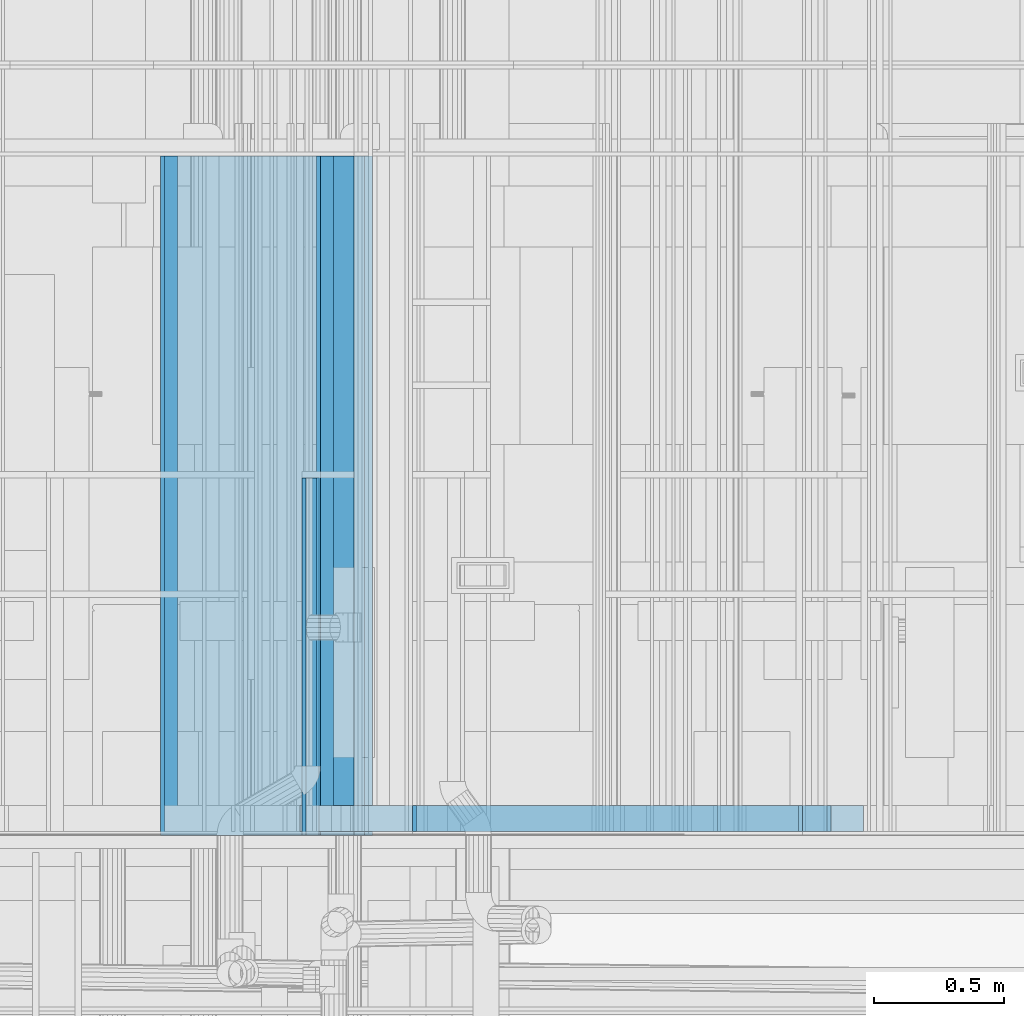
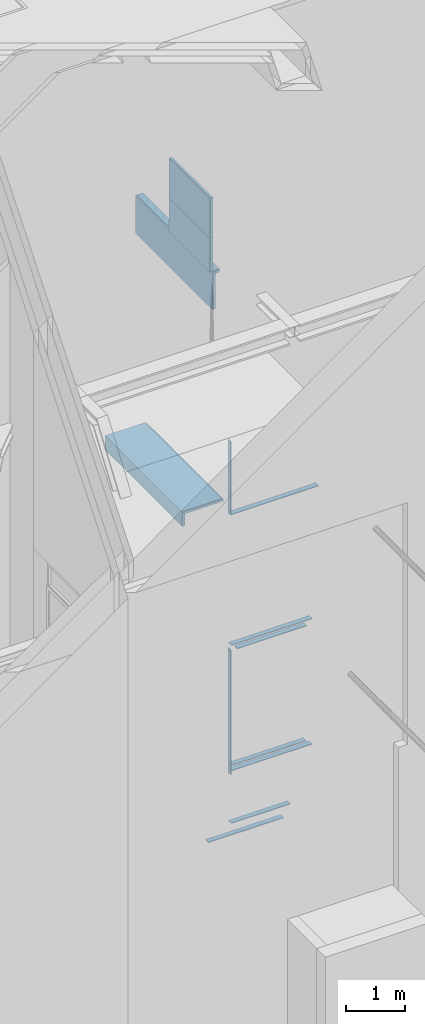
# One storey, part 47 of 583: 21 building element parts, 11 elements without a shape of their own.
"""IFC2X3 building model written with IfcOpenShell, lengths in metres."""

from ifc_helpers import new_model, entity, si_unit, converted_unit, derived_unit, money_unit, direction, frame, frame_2d, origin_with_axes, place, context, subcontext, project, spatial, polyline, rectangle, outline, extrude, material, type_object, element, aggregate, save


model = new_model("IFC2X3")

# Units and contexts
model_context = context("Model", 3, precision=1e-05, world=origin_with_axes(), true_north=direction((0.0, 1.0)))
body_context = subcontext(model_context, "Body", "Model", "MODEL_VIEW", scale=1.0)
ifc_project = project(units=[si_unit("LENGTHUNIT", "METRE"), si_unit("AREAUNIT", "SQUARE_METRE"), si_unit("VOLUMEUNIT", "CUBIC_METRE"), si_unit("ABSORBEDDOSEUNIT", "GRAY"), si_unit("AMOUNTOFSUBSTANCEUNIT", "MOLE"), si_unit("DOSEEQUIVALENTUNIT", "SIEVERT"), si_unit("ELECTRICCAPACITANCEUNIT", "FARAD"), si_unit("ELECTRICCHARGEUNIT", "COULOMB"), si_unit("ELECTRICCONDUCTANCEUNIT", "SIEMENS"), si_unit("ELECTRICCURRENTUNIT", "AMPERE"), si_unit("ELECTRICRESISTANCEUNIT", "OHM"), si_unit("ELECTRICVOLTAGEUNIT", "VOLT"), si_unit("ENERGYUNIT", "JOULE"), si_unit("FORCEUNIT", "NEWTON"), si_unit("FREQUENCYUNIT", "HERTZ"), si_unit("ILLUMINANCEUNIT", "LUX"), si_unit("INDUCTANCEUNIT", "HENRY"), si_unit("LUMINOUSFLUXUNIT", "LUMEN"), si_unit("LUMINOUSINTENSITYUNIT", "CANDELA"), si_unit("MAGNETICFLUXDENSITYUNIT", "TESLA"), si_unit("MAGNETICFLUXUNIT", "WEBER"), si_unit("MASSUNIT", "GRAM"), converted_unit("PLANEANGLEUNIT", "degree", entity("IfcReal", 0.0174532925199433), si_unit("PLANEANGLEUNIT", "RADIAN"), dimensions=[0, 0, 0, 0, 0, 0, 0]), si_unit("POWERUNIT", "WATT"), si_unit("PRESSUREUNIT", "PASCAL"), si_unit("RADIOACTIVITYUNIT", "BECQUEREL"), si_unit("SOLIDANGLEUNIT", "STERADIAN"), si_unit("THERMODYNAMICTEMPERATUREUNIT", "KELVIN"), si_unit("TIMEUNIT", "SECOND"), derived_unit("ACCELERATIONUNIT", [(si_unit("LENGTHUNIT", "METRE"), 1), (si_unit("TIMEUNIT", "SECOND"), -2)]), derived_unit("ANGULARVELOCITYUNIT", [(converted_unit("PLANEANGLEUNIT", "degree", entity("IfcReal", 0.0174532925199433), si_unit("PLANEANGLEUNIT", "RADIAN"), dimensions=[0, 0, 0, 0, 0, 0, 0]), 1), (si_unit("TIMEUNIT", "SECOND"), -1)]), derived_unit("CURVATUREUNIT", [(converted_unit("PLANEANGLEUNIT", "degree", entity("IfcReal", 0.0174532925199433), si_unit("PLANEANGLEUNIT", "RADIAN"), dimensions=[0, 0, 0, 0, 0, 0, 0]), 1), (si_unit("LENGTHUNIT", "METRE"), -1)]), derived_unit("DYNAMICVISCOSITYUNIT", [(si_unit("PRESSUREUNIT", "PASCAL"), 1), (si_unit("TIMEUNIT", "SECOND"), 1)]), derived_unit("HEATFLUXDENSITYUNIT", [(si_unit("POWERUNIT", "WATT"), 1), (si_unit("LENGTHUNIT", "METRE"), -2)]), derived_unit("HEATINGVALUEUNIT", [(si_unit("ENERGYUNIT", "JOULE"), 1), (si_unit("MASSUNIT", "GRAM"), -1)]), derived_unit("INTEGERCOUNTRATEUNIT", [(si_unit("TIMEUNIT", "SECOND"), -1)]), derived_unit("IONCONCENTRATIONUNIT", [(si_unit("MASSUNIT", "GRAM"), 1), (si_unit("VOLUMEUNIT", "CUBIC_METRE"), -1)]), derived_unit("ISOTHERMALMOISTURECAPACITYUNIT", [(si_unit("VOLUMEUNIT", "CUBIC_METRE"), 1), (si_unit("MASSUNIT", "GRAM"), -1)]), derived_unit("KINEMATICVISCOSITYUNIT", [(si_unit("AREAUNIT", "SQUARE_METRE"), 1), (si_unit("TIMEUNIT", "SECOND"), -1)]), derived_unit("LINEARFORCEUNIT", [(si_unit("FORCEUNIT", "NEWTON"), 1), (si_unit("LENGTHUNIT", "METRE"), -1)]), derived_unit("LINEARMOMENTUNIT", [(si_unit("FORCEUNIT", "NEWTON"), 1), (si_unit("LENGTHUNIT", "METRE"), -1)]), derived_unit("LINEARSTIFFNESSUNIT", [(si_unit("FORCEUNIT", "NEWTON"), 1), (si_unit("LENGTHUNIT", "METRE"), -1)]), derived_unit("LINEARVELOCITYUNIT", [(si_unit("LENGTHUNIT", "METRE"), 1), (si_unit("TIMEUNIT", "SECOND"), -1)]), derived_unit("LUMINOUSINTENSITYDISTRIBUTIONUNIT", [(si_unit("LUMINOUSINTENSITYUNIT", "CANDELA"), 1), (si_unit("LUMINOUSFLUXUNIT", "LUMEN"), -1)]), derived_unit("MASSDENSITYUNIT", [(si_unit("MASSUNIT", "GRAM"), 1), (si_unit("VOLUMEUNIT", "CUBIC_METRE"), -1)]), derived_unit("MASSFLOWRATEUNIT", [(si_unit("MASSUNIT", "GRAM"), 1), (si_unit("TIMEUNIT", "SECOND"), -1)]), derived_unit("MASSPERLENGTHUNIT", [(si_unit("MASSUNIT", "GRAM"), 1), (si_unit("LENGTHUNIT", "METRE"), -1)]), derived_unit("MODULUSOFELASTICITYUNIT", [(si_unit("FORCEUNIT", "NEWTON"), 1), (si_unit("AREAUNIT", "SQUARE_METRE"), -1)]), derived_unit("MODULUSOFLINEARSUBGRADEREACTIONUNIT", [(si_unit("FORCEUNIT", "NEWTON"), 1), (si_unit("LENGTHUNIT", "METRE"), -2)]), derived_unit("MODULUSOFROTATIONALSUBGRADEREACTIONUNIT", [(si_unit("FORCEUNIT", "NEWTON"), 1), (si_unit("LENGTHUNIT", "METRE"), 1)]), derived_unit("MODULUSOFSUBGRADEREACTIONUNIT", [(si_unit("FORCEUNIT", "NEWTON"), 1), (si_unit("VOLUMEUNIT", "CUBIC_METRE"), -1)]), derived_unit("MOISTUREDIFFUSIVITYUNIT", [(si_unit("VOLUMEUNIT", "CUBIC_METRE"), 1), (si_unit("TIMEUNIT", "SECOND"), -1)]), derived_unit("MOLECULARWEIGHTUNIT", [(si_unit("MASSUNIT", "GRAM"), 1), (si_unit("AMOUNTOFSUBSTANCEUNIT", "MOLE"), -1)]), derived_unit("PLANARFORCEUNIT", [(si_unit("FORCEUNIT", "NEWTON"), 1), (si_unit("LENGTHUNIT", "METRE"), -2)]), derived_unit("ROTATIONALFREQUENCYUNIT", [(si_unit("TIMEUNIT", "SECOND"), -1)]), derived_unit("ROTATIONALMASSUNIT", [(si_unit("MASSUNIT", "GRAM"), 1), (si_unit("LENGTHUNIT", "METRE"), 2)]), derived_unit("ROTATIONALSTIFFNESSUNIT", [(si_unit("FORCEUNIT", "NEWTON"), 1), (si_unit("LENGTHUNIT", "METRE"), 1), (converted_unit("PLANEANGLEUNIT", "degree", entity("IfcReal", 0.0174532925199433), si_unit("PLANEANGLEUNIT", "RADIAN"), dimensions=[0, 0, 0, 0, 0, 0, 0]), -1)]), derived_unit("SECTIONAREAINTEGRALUNIT", [(si_unit("LENGTHUNIT", "METRE"), 5)]), derived_unit("SECTIONMODULUSUNIT", [(si_unit("LENGTHUNIT", "METRE"), 3)]), derived_unit("SHEARMODULUSUNIT", [(si_unit("FORCEUNIT", "NEWTON"), 1), (si_unit("AREAUNIT", "SQUARE_METRE"), -1)]), derived_unit("SOUNDPOWERUNIT", [(si_unit("ENERGYUNIT", "JOULE"), 1), (si_unit("TIMEUNIT", "SECOND"), -1)]), derived_unit("SPECIFICHEATCAPACITYUNIT", [(si_unit("FORCEUNIT", "NEWTON"), 1), (si_unit("MASSUNIT", "GRAM"), -1), (si_unit("THERMODYNAMICTEMPERATUREUNIT", "KELVIN"), -1)]), derived_unit("TEMPERATUREGRADIENTUNIT", [(si_unit("THERMODYNAMICTEMPERATUREUNIT", "KELVIN"), 1), (si_unit("LENGTHUNIT", "METRE"), -1)]), derived_unit("THERMALADMITTANCEUNIT", [(si_unit("POWERUNIT", "WATT"), 1), (si_unit("AREAUNIT", "SQUARE_METRE"), -1), (si_unit("THERMODYNAMICTEMPERATUREUNIT", "KELVIN"), -1)]), derived_unit("THERMALCONDUCTANCEUNIT", [(si_unit("POWERUNIT", "WATT"), 1), (si_unit("LENGTHUNIT", "METRE"), -1), (si_unit("THERMODYNAMICTEMPERATUREUNIT", "KELVIN"), -1)]), derived_unit("THERMALEXPANSIONCOEFFICIENTUNIT", [(si_unit("THERMODYNAMICTEMPERATUREUNIT", "KELVIN"), -1)]), derived_unit("THERMALRESISTANCEUNIT", [(si_unit("AREAUNIT", "SQUARE_METRE"), 1), (si_unit("POWERUNIT", "WATT"), -1)]), derived_unit("THERMALTRANSMITTANCEUNIT", [(si_unit("POWERUNIT", "WATT"), 1), (si_unit("AREAUNIT", "SQUARE_METRE"), -1), (si_unit("THERMODYNAMICTEMPERATUREUNIT", "KELVIN"), -1)]), derived_unit("TORQUEUNIT", [(si_unit("FORCEUNIT", "NEWTON"), 1), (si_unit("LENGTHUNIT", "METRE"), 1)]), derived_unit("VAPORPERMEABILITYUNIT", [(si_unit("MASSUNIT", "GRAM"), 1), (si_unit("TIMEUNIT", "SECOND"), -1)]), derived_unit("VOLUMETRICFLOWRATEUNIT", [(si_unit("VOLUMEUNIT", "CUBIC_METRE"), 1), (si_unit("TIMEUNIT", "SECOND"), -1)]), derived_unit("WARPINGCONSTANTUNIT", [(si_unit("LENGTHUNIT", "METRE"), 6)]), derived_unit("WARPINGMOMENTUNIT", [(si_unit("FORCEUNIT", "NEWTON"), 1), (si_unit("LENGTHUNIT", "METRE"), 2)]), money_unit("GBP")], contexts=[model_context])

# Site, building, storey
site_placement = place(None, origin_with_axes())
site = spatial("IfcSite", under=ifc_project, at=site_placement, Name="Site", CompositionType="ELEMENT")
building_placement = place(site_placement, origin_with_axes())
building = spatial("IfcBuilding", under=site, at=building_placement, Name="Building01", CompositionType="ELEMENT")
storey_placement = place(building_placement, frame((0.0, 0.0, 20.78), z_axis=(0.0, 0.0, 1.0), x_axis=(1.0, 0.0, 0.0)))
storey = spatial("IfcBuildingStorey", under=building, at=storey_placement, Name="RL", CompositionType="ELEMENT", Elevation=20.78)

# Wall, building element parts
wall_type_1 = type_object("IfcWallType", Name="SHE_A-Walls_Type05a_Partition_95mm_tall", PredefinedType="NOTDEFINED")
wall_1_placement = place(storey_placement, frame((10.38, 5.15, -7.851415), z_axis=(0.0, 1.0, 0.0), x_axis=(-1.0, 0.0, 0.0)))
wall_1 = element("IfcWall", 1, at=wall_1_placement, inside=storey, type_object=wall_type_1, Name="5A", ObjectType="SHE_A-Walls_Type05a_Partition_95mm_tall")
ifc_material_1 = material(Name="A_BSUK_Walls_Timber")
placement_1 = place(wall_1_placement, origin_with_axes())
building_element_part_1 = element("IfcBuildingElementPart", 2, at=placement_1, material=ifc_material_1, Name="2", context=body_context, shape_type="SweptSolid", body=[
    extrude(outline(polyline([(1.545, 0.075), (-0.05, 0.075), (-0.035, 0.06), (1.545, 0.06), (1.545, 0.075)])), frame((0.0, 0.0, 0.015), z_axis=(0.0, 0.0, 1.0), x_axis=(1.0, 0.0, 0.0)), (0.0, 0.0, 1.0), 0.1),
])
building_element_part_2 = element("IfcBuildingElementPart", 3, at=placement_1, material=ifc_material_1, Name="3", context=body_context, shape_type="SweptSolid", body=[
    extrude(outline(polyline([(1.426872, -0.035), (0.06, -0.035), (0.075, -0.05), (1.426872, -0.05), (1.426872, -0.035)])), frame((0.0, 0.0, 0.015), z_axis=(0.0, 0.0, 1.0), x_axis=(1.0, 0.0, 0.0)), (0.0, 0.0, 1.0), 0.1),
])
aggregate(wall_1, [building_element_part_1, building_element_part_2])

wall_type_2 = type_object("IfcWallType", Name="SHE_A-Walls_Type05c_PreWallShell_65mm", PredefinedType="NOTDEFINED")
wall_2_placement = place(storey_placement, frame((7.915, 5.15, -4.715), z_axis=(0.0, 1.0, 0.0), x_axis=(1.0, 0.0, 0.0)))
wall_2 = element("IfcWall", 4, at=wall_2_placement, inside=storey, type_object=wall_type_2, Name="5C", ObjectType="SHE_A-Walls_Type05c_PreWallShell_65mm")
ifc_material_2 = material(Name="A_BSUK_OpeningsClearance")
placement_2 = place(wall_2_placement, origin_with_axes())
building_element_part_3 = element("IfcBuildingElementPart", 5, at=placement_2, material=ifc_material_2, Name="1", context=body_context, shape_type="SweptSolid", body=[
    extrude(outline(polyline([(0.75, 0.0), (0.0, 0.0), (-0.05, -0.05), (0.75, -0.05), (0.75, 0.0)])), origin_with_axes(), (0.0, 0.0, 1.0), 2.615),
])
building_element_part_4 = element("IfcBuildingElementPart", 6, at=placement_2, material=ifc_material_1, Name="2", context=body_context, shape_type="SweptSolid", body=[
    extrude(outline(polyline([(0.72, -0.05), (-0.05, -0.05), (-0.065, -0.065), (0.72, -0.065), (0.72, -0.05)])), origin_with_axes(), (0.0, 0.0, 1.0), 2.615),
])
aggregate(wall_2, [building_element_part_3, building_element_part_4])

wall_3_placement = place(storey_placement, frame((7.915, 5.15, -4.965), z_axis=(0.0, 1.0, 0.0), x_axis=(0.0, 0.0, 1.0)))
wall_3 = element("IfcWall", 7, at=wall_3_placement, inside=storey, type_object=wall_type_2, Name="5C", ObjectType="SHE_A-Walls_Type05c_PreWallShell_65mm")
placement_3 = place(wall_3_placement, origin_with_axes())
building_element_part_5 = element("IfcBuildingElementPart", 8, at=placement_3, material=ifc_material_2, Name="1", context=body_context, shape_type="SweptSolid", body=[
    extrude(outline(polyline([(0.25, 0.0), (0.0, 0.0), (0.0, -0.05), (0.3, -0.05), (0.25, 0.0)])), origin_with_axes(), (0.0, 0.0, 1.0), 2.615),
])
building_element_part_6 = element("IfcBuildingElementPart", 9, at=placement_3, material=ifc_material_1, Name="2", context=body_context, shape_type="SweptSolid", body=[
    extrude(outline(polyline([(0.3, -0.05), (0.03, -0.05), (0.03, -0.065), (0.315, -0.065), (0.3, -0.05)])), origin_with_axes(), (0.0, 0.0, 1.0), 2.615),
])
aggregate(wall_3, [building_element_part_5, building_element_part_6])

wall_type_3 = type_object("IfcWallType", Name="SHE_A-Walls_Type03a_BlockworkWall_170mm", PredefinedType="NOTDEFINED")
wall_4_placement = place(storey_placement, frame((8.805, 5.15, -2.795), z_axis=(0.0, 1.0, 0.0), x_axis=(0.0, 0.0, -1.0)))
wall_4 = element("IfcWall", 10, at=wall_4_placement, inside=storey, type_object=wall_type_3, Name="4B", ObjectType="SHE_A-Walls_Type03a_BlockworkWall_170mm")
placement_4 = place(wall_4_placement, origin_with_axes())
building_element_part_7 = element("IfcBuildingElementPart", 11, at=placement_4, material=ifc_material_1, Name="11", context=body_context, shape_type="SweptSolid", body=[
    extrude(rectangle(XDim=2.589714, YDim=0.015, at=frame_2d((6.386272, -0.0225), x_axis=(-1.0, 0.0))), frame((0.0, 0.0, 0.015), z_axis=(0.0, 0.0, 1.0), x_axis=(1.0, 0.0, 0.0)), (0.0, 0.0, 1.0), 0.1),
])
building_element_part_8 = element("IfcBuildingElementPart", 12, at=placement_4, material=ifc_material_1, Name="12", context=body_context, shape_type="SweptSolid", body=[
    extrude(rectangle(XDim=1.515, YDim=0.015, at=frame_2d((1.504368, -0.0225), x_axis=(-1.0, 0.0))), frame((0.0, 0.0, 0.015), z_axis=(0.0, 0.0, 1.0), x_axis=(1.0, 0.0, 0.0)), (0.0, 0.0, 1.0), 0.1),
])
aggregate(wall_4, [building_element_part_7, building_element_part_8])

wall_type_4 = type_object("IfcWallType", Name="SHE_A-Walls_Type01c_Partywall_225mm_twin_tall", PredefinedType="NOTDEFINED")
wall_5_placement = place(storey_placement, frame((8.82, 5.15, -11.633), z_axis=(0.0, 1.0, 0.0), x_axis=(1.0, 0.0, 0.0)))
wall_5 = element("IfcWall", 13, at=wall_5_placement, inside=storey, type_object=wall_type_4, Name="1C", ObjectType="SHE_A-Walls_Type01c_Partywall_225mm_twin_tall")
placement_5 = place(wall_5_placement, origin_with_axes())
building_element_part_9 = element("IfcBuildingElementPart", 14, at=placement_5, material=ifc_material_1, Name="2", context=body_context, shape_type="SweptSolid", body=[
    extrude(outline(polyline([(1.027704, 0.102), (-0.432595, 0.102), (-0.432595, 0.087), (1.042704, 0.087), (1.027704, 0.102)])), frame((0.0, 0.0, 0.015), z_axis=(0.0, 0.0, 1.0), x_axis=(1.0, 0.0, 0.0)), (0.0, 0.0, 1.0), 0.1),
])
building_element_part_10 = element("IfcBuildingElementPart", 15, at=placement_5, material=ifc_material_1, Name="7", context=body_context, shape_type="SweptSolid", body=[
    extrude(rectangle(XDim=1.157704, YDim=0.015, at=frame_2d((0.593852, -0.1455), x_axis=(-1.0, 0.0))), frame((0.0, 0.0, 0.015), z_axis=(0.0, 0.0, 1.0), x_axis=(1.0, 0.0, 0.0)), (0.0, 0.0, 1.0), 0.1),
])
aggregate(wall_5, [building_element_part_9, building_element_part_10])

wall_6_placement = place(storey_placement, frame((8.515, 5.15, 0.127661), z_axis=(0.0, 1.0, 0.0), x_axis=(0.0, 0.0, -1.0)))
wall_6 = element("IfcWall", 16, at=wall_6_placement, inside=storey, type_object=wall_type_2, Name="5C", ObjectType="SHE_A-Walls_Type05c_PreWallShell_65mm")
placement_6 = place(wall_6_placement, origin_with_axes())
building_element_part_11 = element("IfcBuildingElementPart", 17, at=placement_6, material=ifc_material_2, Name="1", context=body_context, shape_type="SweptSolid", body=[
    extrude(rectangle(XDim=0.785, YDim=0.05, at=frame_2d((0.3925, 0.025), x_axis=(-1.0, 0.0))), origin_with_axes(), (0.0, 0.0, 1.0), 2.615),
])
building_element_part_12 = element("IfcBuildingElementPart", 18, at=placement_6, material=ifc_material_1, Name="2", context=body_context, shape_type="SweptSolid", body=[
    extrude(rectangle(XDim=0.8, YDim=0.015, at=frame_2d((0.385, 0.0575), x_axis=(-1.0, 0.0))), origin_with_axes(), (0.0, 0.0, 1.0), 2.615),
])
aggregate(wall_6, [building_element_part_11, building_element_part_12])

wall_7_placement = place(storey_placement, frame((8.595, 5.15, 0.077661), z_axis=(0.0, 1.0, 0.0), x_axis=(-1.0, 0.0, 0.0)))
wall_7 = element("IfcWall", 19, at=wall_7_placement, inside=storey, type_object=wall_type_2, Name="5C", ObjectType="SHE_A-Walls_Type05c_PreWallShell_65mm")
placement_7 = place(wall_7_placement, origin_with_axes())
building_element_part_13 = element("IfcBuildingElementPart", 20, at=placement_7, material=ifc_material_2, Name="1", context=body_context, shape_type="SweptSolid", body=[
    extrude(rectangle(XDim=0.08, YDim=0.05, at=frame_2d((0.04, 0.025), x_axis=(-1.0, 0.0))), origin_with_axes(), (0.0, 0.0, 1.0), 2.615),
])
building_element_part_14 = element("IfcBuildingElementPart", 21, at=placement_7, material=ifc_material_1, Name="2", context=body_context, shape_type="SweptSolid", body=[
    extrude(rectangle(XDim=0.13, YDim=0.015, at=frame_2d((0.065, 0.0575), x_axis=(-1.0, 0.0))), origin_with_axes(), (0.0, 0.0, 1.0), 2.615),
])
aggregate(wall_7, [building_element_part_13, building_element_part_14])

wall_8_placement = place(storey_placement, frame((8.460003, 5.15, 0.846659), z_axis=(0.0, 1.0, 0.0), x_axis=(0.0, 0.0, -1.0)))
wall_8 = element("IfcWall", 22, at=wall_8_placement, inside=storey, type_object=wall_type_2, Name="5C", ObjectType="SHE_A-Walls_Type05c_PreWallShell_65mm")
placement_8 = place(wall_8_placement, origin_with_axes())
building_element_part_15 = element("IfcBuildingElementPart", 23, at=placement_8, material=ifc_material_2, Name="1", context=body_context, shape_type="SweptSolid", body=[
    extrude(rectangle(XDim=0.703998, YDim=0.05, at=frame_2d((0.351999, 0.025), x_axis=(-1.0, 0.0))), origin_with_axes(), (0.0, 0.0, 1.0), 1.375),
])
building_element_part_16 = element("IfcBuildingElementPart", 24, at=placement_8, material=ifc_material_1, Name="2", context=body_context, shape_type="SweptSolid", body=[
    extrude(rectangle(XDim=0.703998, YDim=0.015, at=frame_2d((0.351999, 0.0575), x_axis=(1.0, 0.0))), origin_with_axes(), (0.0, 0.0, 1.0), 1.375),
])
aggregate(wall_8, [building_element_part_15, building_element_part_16])

wall_9_placement = place(storey_placement, frame((8.46, 5.15, 1.681661), z_axis=(0.0, 1.0, 0.0), x_axis=(0.0, 0.0, -1.0)))
wall_9 = element("IfcWall", 25, at=wall_9_placement, inside=storey, type_object=wall_type_2, Name="5C", ObjectType="SHE_A-Walls_Type05c_PreWallShell_65mm")
placement_9 = place(wall_9_placement, origin_with_axes())
building_element_part_17 = element("IfcBuildingElementPart", 26, at=placement_9, material=ifc_material_2, Name="1", context=body_context, shape_type="SweptSolid", body=[
    extrude(rectangle(XDim=0.05, YDim=0.835002, at=frame_2d((0.417501, 0.025), x_axis=(0.0, -1.0))), origin_with_axes(), (0.0, 0.0, 1.0), 1.375),
])
building_element_part_18 = element("IfcBuildingElementPart", 27, at=placement_9, material=ifc_material_1, Name="2", context=body_context, shape_type="SweptSolid", body=[
    extrude(rectangle(XDim=0.015, YDim=0.835002, at=frame_2d((0.417501, 0.0575), x_axis=(0.0, -1.0))), origin_with_axes(), (0.0, 0.0, 1.0), 1.375),
])
aggregate(wall_9, [building_element_part_17, building_element_part_18])

wall_10_placement = place(storey_placement, frame((8.82, 5.15, -10.326129), z_axis=(0.0, 1.0, 0.0), x_axis=(1.0, 0.0, 0.0)))
wall_10 = element("IfcWall", 28, at=wall_10_placement, inside=storey, type_object=wall_type_1, Name="5A", ObjectType="SHE_A-Walls_Type05a_Partition_95mm_tall")
placement_10 = place(wall_10_placement, origin_with_axes())
building_element_part_19 = element("IfcBuildingElementPart", 29, at=placement_10, material=ifc_material_1, Name="2", context=body_context, shape_type="SweptSolid", body=[
    extrude(outline(polyline([(1.61, 0.075), (0.015, 0.075), (0.015, 0.06), (1.595, 0.06), (1.61, 0.075)])), frame((0.0, 0.0, 0.015), z_axis=(0.0, 0.0, 1.0), x_axis=(1.0, 0.0, 0.0)), (0.0, 0.0, 1.0), 0.1),
])
building_element_part_20 = element("IfcBuildingElementPart", 30, at=placement_10, material=ifc_material_1, Name="3", context=body_context, shape_type="SweptSolid", body=[
    extrude(outline(polyline([(1.5, -0.035), (0.0, -0.035), (0.0, -0.05), (1.485, -0.05), (1.5, -0.035)])), frame((0.0, 0.0, 0.015), z_axis=(0.0, 0.0, 1.0), x_axis=(1.0, 0.0, 0.0)), (0.0, 0.0, 1.0), 0.1),
])
aggregate(wall_10, [building_element_part_19, building_element_part_20])

# Wall, building element part
wall_11_placement = place(storey_placement, frame((8.82, 5.15, -5.159868), z_axis=(0.0, 1.0, 0.0), x_axis=(1.0, 0.0, 0.0)))
wall_11 = element("IfcWall", 31, at=wall_11_placement, inside=storey, type_object=wall_type_4, Name="1C", ObjectType="SHE_A-Walls_Type01c_Partywall_225mm_twin_tall")
building_element_part_21_placement = place(wall_11_placement, origin_with_axes())
building_element_part_21 = element("IfcBuildingElementPart", 32, at=building_element_part_21_placement, material=ifc_material_1, Name="7", context=body_context, shape_type="SweptSolid", body=[
    extrude(rectangle(XDim=1.735, YDim=0.015, at=frame_2d((0.8675, -0.0955), x_axis=(-1.0, 0.0))), frame((0.0, 0.0, 0.015), z_axis=(0.0, 0.0, 1.0), x_axis=(1.0, 0.0, 0.0)), (0.0, 0.0, 1.0), 0.1),
])
aggregate(wall_11, [building_element_part_21])

save(model, "model.ifc")
